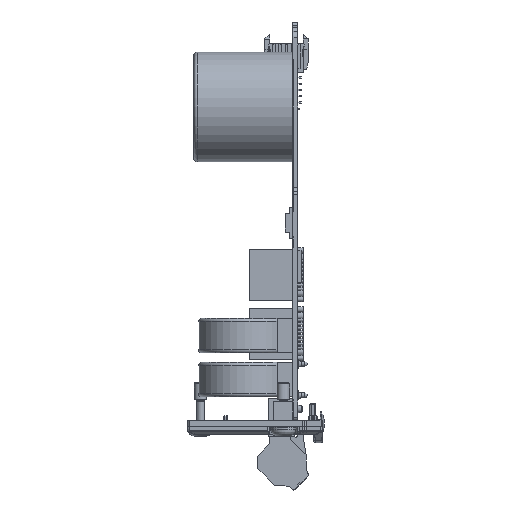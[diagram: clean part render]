
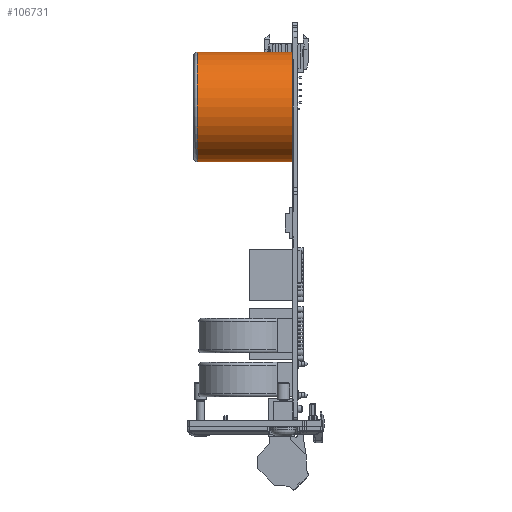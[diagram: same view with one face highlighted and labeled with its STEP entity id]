
A CAD part, left-side view. The second image highlights one B-rep face of the part: STEP entity #106731.
In plain terms, the highlighted cylindrical face has radius 17.5 mm (diameter 35 mm), a full revolution.
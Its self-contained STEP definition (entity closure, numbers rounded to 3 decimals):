
#2342=CIRCLE('',#109390,17.5);
#3261=CIRCLE('',#114179,17.5);
#3262=CIRCLE('',#114180,17.5);
#4354=CYLINDRICAL_SURFACE('',#114181,17.5);
#9672=FACE_OUTER_BOUND('',#15715,.T.);
#15715=EDGE_LOOP('',(#89725,#89726,#89727,#89728,#89729));
#27416=LINE('',#177208,#39043);
#39043=VECTOR('',#140217,17.5);
#42063=VERTEX_POINT('',#156753);
#48546=VERTEX_POINT('',#177202);
#48547=VERTEX_POINT('',#177204);
#52558=EDGE_CURVE('',#42063,#42063,#2342,.T.);
#62592=EDGE_CURVE('',#48546,#48547,#3261,.T.);
#62593=EDGE_CURVE('',#48547,#48546,#3262,.T.);
#62594=EDGE_CURVE('',#48547,#42063,#27416,.T.);
#89725=ORIENTED_EDGE('',*,*,#62592,.F.);
#89726=ORIENTED_EDGE('',*,*,#62593,.F.);
#89727=ORIENTED_EDGE('',*,*,#62594,.T.);
#89728=ORIENTED_EDGE('',*,*,#52558,.F.);
#89729=ORIENTED_EDGE('',*,*,#62594,.F.);
#106731=ADVANCED_FACE('',(#9672),#4354,.T.);
#109390=AXIS2_PLACEMENT_3D('',#156754,#121551,#121552);
#114179=AXIS2_PLACEMENT_3D('',#177205,#140211,#140212);
#114180=AXIS2_PLACEMENT_3D('',#177206,#140213,#140214);
#114181=AXIS2_PLACEMENT_3D('',#177207,#140215,#140216);
#121551=DIRECTION('center_axis',(0.,-1.,0.));
#121552=DIRECTION('ref_axis',(-1.,0.,0.));
#140211=DIRECTION('center_axis',(0.,1.,0.));
#140212=DIRECTION('ref_axis',(-1.,0.,0.));
#140213=DIRECTION('center_axis',(0.,1.,0.));
#140214=DIRECTION('ref_axis',(-1.,0.,0.));
#140215=DIRECTION('center_axis',(0.,1.,0.));
#140216=DIRECTION('ref_axis',(-1.,0.,0.));
#140217=DIRECTION('',(0.,-1.,0.));
#156753=CARTESIAN_POINT('',(-23.56,0.,99.88));
#156754=CARTESIAN_POINT('Origin',(-41.06,0.,99.88));
#177202=CARTESIAN_POINT('',(-41.06,30.5,82.38));
#177204=CARTESIAN_POINT('',(-23.56,30.5,99.88));
#177205=CARTESIAN_POINT('Origin',(-41.06,30.5,99.88));
#177206=CARTESIAN_POINT('Origin',(-41.06,30.5,99.88));
#177207=CARTESIAN_POINT('Origin',(-41.06,0.,99.88));
#177208=CARTESIAN_POINT('',(-23.56,0.,99.88));
